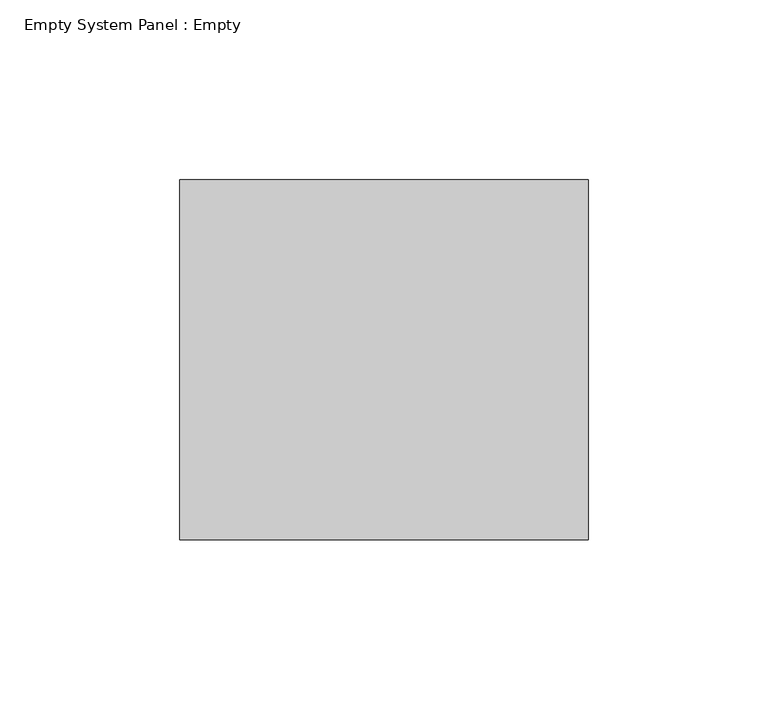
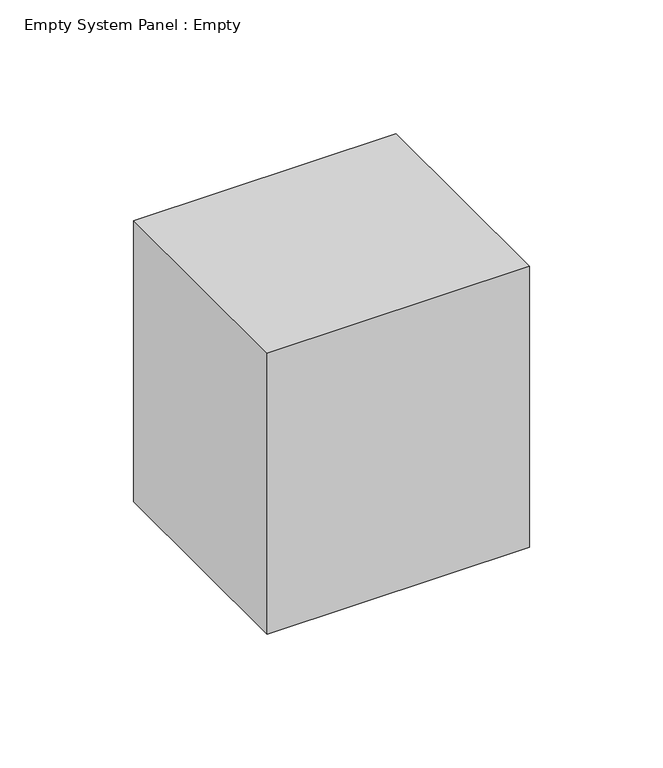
"""IFC4 building model written with IfcOpenShell, lengths in millimetres: plate geometry, Empty System Panel : Empty."""

from ifc_helpers import new_model, si_unit, origin, origin_with_axes, place, context, project, spatial, polyline, outline, extrude, source, transform, mapped, element, save


def empty_system_panel_empty_50ac6329(model_context):
    return source(origin(), model_context, "Body", "SweptSolid", [
        extrude(outline(polyline([(56.6878048, 50.0), (-56.6878048, 50.0), (-56.6878048, 150.0), (56.6878048, 150.0), (56.6878048, 50.0)])), origin_with_axes(), (0.0, 0.0, 1.0), 128.37561),
    ])


if __name__ == "__main__":
    model = new_model("IFC4")
    model_context = context("Model", 3, world=origin())
    ifc_project = project(units=[si_unit("LENGTHUNIT", "METRE", prefix="MILLI")], contexts=[model_context])
    site = spatial("IfcSite", under=ifc_project)
    building = spatial("IfcBuilding", under=site)
    placement = place(None, origin())
    empty_system_panel_empty_shape = empty_system_panel_empty_50ac6329(model_context)
    element("IfcPlate", 1, ObjectType="Empty System Panel : Empty", at=placement, inside=building, context=model_context, shape_type="MappedRepresentation", body=[
        mapped(empty_system_panel_empty_shape, transform((0.0, 0.0, 0.0), x_axis=(1.0, 0.0, 0.0), y_axis=(0.0, 1.0, 0.0), z_axis=(0.0, 0.0, 1.0))),
    ])
    save(model, "model.ifc")
